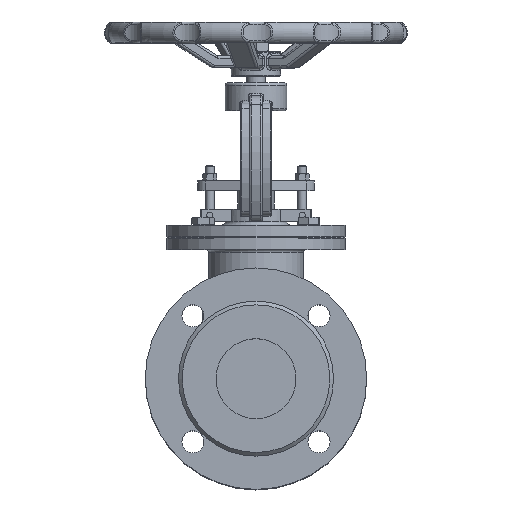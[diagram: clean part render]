
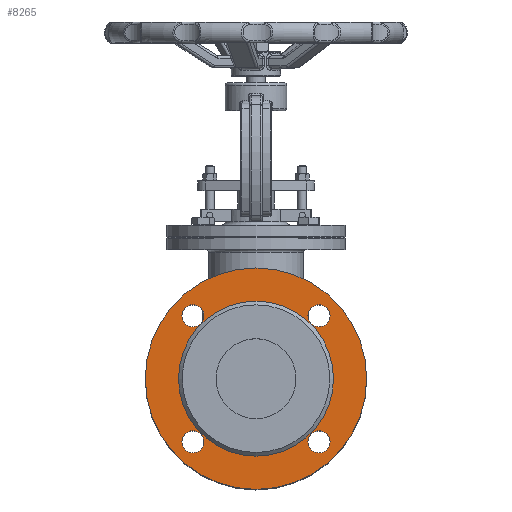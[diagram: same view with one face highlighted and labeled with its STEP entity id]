
A CAD part, top view. The second image highlights one B-rep face of the part: STEP entity #8265.
In plain terms, the highlighted planar face has unit normal (0, 0, 1).
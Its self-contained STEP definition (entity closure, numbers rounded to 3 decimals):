
#8265=ADVANCED_FACE('',(#17585,#17587,#17589,#17591,#17593,#17595),#17597,.F.);
#17585=FACE_BOUND('',#17586,.T.);
#17586=EDGE_LOOP('',(#24389));
#17587=FACE_BOUND('',#17588,.T.);
#17588=EDGE_LOOP('',(#24390));
#17589=FACE_BOUND('',#17590,.T.);
#17590=EDGE_LOOP('',(#24391));
#17591=FACE_BOUND('',#17592,.T.);
#17592=EDGE_LOOP('',(#24392));
#17593=FACE_BOUND('',#17594,.T.);
#17594=EDGE_LOOP('',(#24393));
#17595=FACE_BOUND('',#17596,.T.);
#17596=EDGE_LOOP('',(#24394));
#17597=PLANE('',#17598);
#17598=AXIS2_PLACEMENT_3D('',#17599,#17600,#17601);
#17599=CARTESIAN_POINT('',(0.,0.,142.));
#17600=DIRECTION('',(0.,0.,-1.));
#17601=DIRECTION('',(0.,1.,0.));
#24389=ORIENTED_EDGE('',*,*,#26944,.T.);
#24390=ORIENTED_EDGE('',*,*,#26945,.T.);
#24391=ORIENTED_EDGE('',*,*,#26946,.T.);
#24392=ORIENTED_EDGE('',*,*,#27139,.F.);
#24393=ORIENTED_EDGE('',*,*,#26947,.T.);
#24394=ORIENTED_EDGE('',*,*,#26948,.T.);
#26944=EDGE_CURVE('',#30674,#30674,#30675,.T.);
#26945=EDGE_CURVE('',#30676,#30676,#30677,.T.);
#26946=EDGE_CURVE('',#30678,#30678,#30679,.T.);
#26947=EDGE_CURVE('',#30680,#30680,#30681,.T.);
#26948=EDGE_CURVE('',#30682,#30682,#30683,.T.);
#27139=EDGE_CURVE('',#30987,#30987,#30988,.T.);
#30674=VERTEX_POINT('',#59437);
#30675=CIRCLE('',#59438,90.);
#30676=VERTEX_POINT('',#59442);
#30677=CIRCLE('',#59443,9.);
#30678=VERTEX_POINT('',#59447);
#30679=CIRCLE('',#59448,9.);
#30680=VERTEX_POINT('',#59452);
#30681=CIRCLE('',#59453,9.);
#30682=VERTEX_POINT('',#59457);
#30683=CIRCLE('',#59458,9.);
#30987=VERTEX_POINT('',#60431);
#30988=CIRCLE('',#60432,63.);
#59437=CARTESIAN_POINT('',(0.,90.,142.));
#59438=AXIS2_PLACEMENT_3D('',#59439,#59440,#59441);
#59439=CARTESIAN_POINT('',(0.,0.,142.));
#59440=DIRECTION('',(0.,0.,1.));
#59441=DIRECTION('',(0.,1.,0.));
#59442=CARTESIAN_POINT('',(51.265,-42.265,142.));
#59443=AXIS2_PLACEMENT_3D('',#59444,#59445,#59446);
#59444=CARTESIAN_POINT('',(51.265,-51.265,142.));
#59445=DIRECTION('',(0.,0.,-1.));
#59446=DIRECTION('',(0.,1.,0.));
#59447=CARTESIAN_POINT('',(-51.265,42.265,142.));
#59448=AXIS2_PLACEMENT_3D('',#59449,#59450,#59451);
#59449=CARTESIAN_POINT('',(-51.265,51.265,142.));
#59450=DIRECTION('',(0.,0.,-1.));
#59451=DIRECTION('',(0.,-1.,0.));
#59452=CARTESIAN_POINT('',(42.265,51.265,142.));
#59453=AXIS2_PLACEMENT_3D('',#59454,#59455,#59456);
#59454=CARTESIAN_POINT('',(51.265,51.265,142.));
#59455=DIRECTION('',(0.,0.,-1.));
#59456=DIRECTION('',(-1.,0.,0.));
#59457=CARTESIAN_POINT('',(-42.265,-51.265,142.));
#59458=AXIS2_PLACEMENT_3D('',#59459,#59460,#59461);
#59459=CARTESIAN_POINT('',(-51.265,-51.265,142.));
#59460=DIRECTION('',(0.,0.,-1.));
#59461=DIRECTION('',(1.,0.,0.));
#60431=CARTESIAN_POINT('',(0.,63.,142.));
#60432=AXIS2_PLACEMENT_3D('',#60433,#60434,#60435);
#60433=CARTESIAN_POINT('',(0.,0.,142.));
#60434=DIRECTION('',(0.,0.,1.));
#60435=DIRECTION('',(0.,1.,0.));
